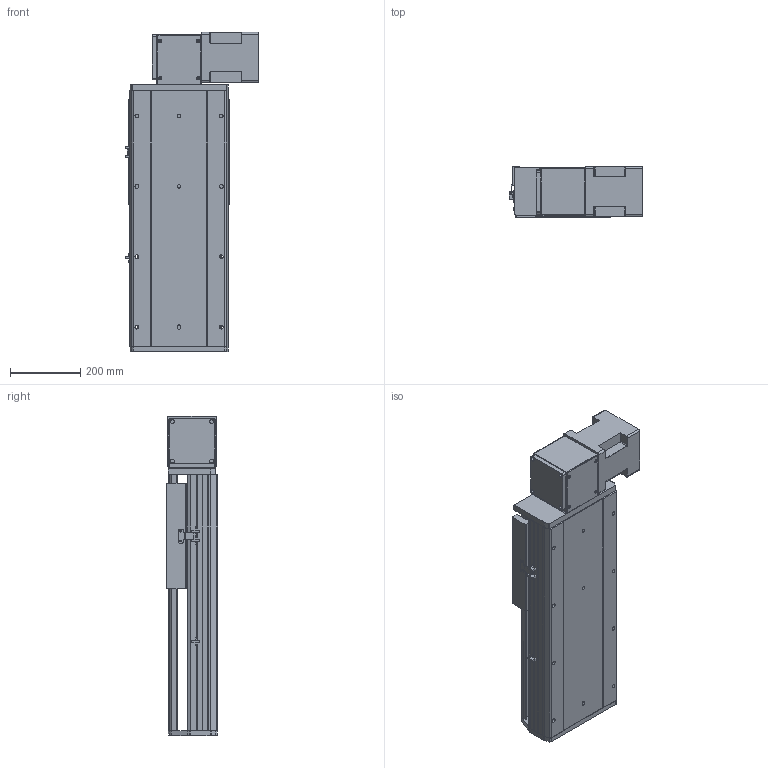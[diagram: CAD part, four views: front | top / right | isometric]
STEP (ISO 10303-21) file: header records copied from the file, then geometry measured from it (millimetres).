
FILE_DESCRIPTION (( 'STEP AP214' ), '1' );
FILE_NAME ('RTB28S-XX-300-BL-M100-XX-C4.STEP', '2025-12-22T02:15:55', ( '' ), ( '' ), 'SwSTEP 2.0', 'SolidWorks 2018', '' );
FILE_SCHEMA (( 'AUTOMOTIVE_DESIGN' ));
Length unit declared in the file: millimetre
Products named in the file (4): RTB28S-GY-004^RTB28S-XX-XX-BL-M100-XX-C4; RTB28S-GY-011^RTB28S-XX-XX-BL-M100-XX-C4; RTB28S-XX-300-BL-M100-XX-C4; RTB28S-GY-008^RTB28S-XX-XX-BL-M100-XX-C4
Assembly tree (3 placements, depth 2):
  RTB28S-XX-300-BL-M100-XX-C4
    RTB28S-GY-011^RTB28S-XX-XX-BL-M100-XX-C4
    RTB28S-GY-004^RTB28S-XX-XX-BL-M100-XX-C4
    RTB28S-GY-008^RTB28S-XX-XX-BL-M100-XX-C4
Bounding box: 380.7 x 145 x 907 mm (x, y, z)
Volume: 18596001.2 mm3; surface area: 1865374 mm2
Topology: 3 solids, 4 shells, 748 faces, 1968 edges, 1248 vertices
Faces by surface type: plane 337, cylinder 327, cone 80, torus 4
Entity records: 27569 total; most frequent: CARTESIAN_POINT 4402, DIRECTION 4158, ORIENTED_EDGE 3872, EDGE_CURVE 1936, AXIS2_PLACEMENT_3D 1484, VERTEX_POINT 1248, VECTOR 1190, LINE 1190
